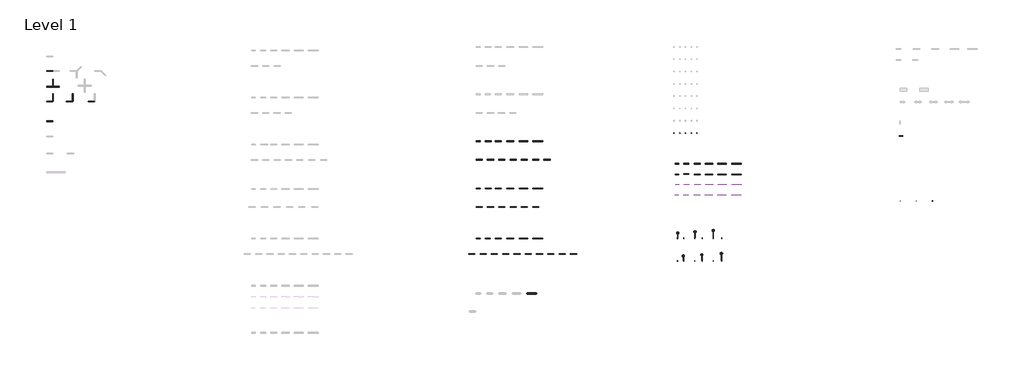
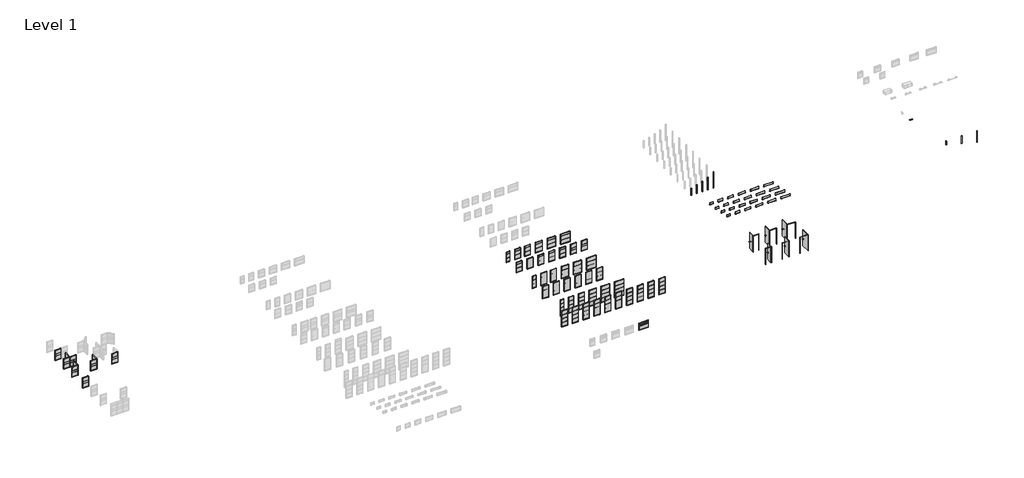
# One storey, part 2 of 3: 100 furniture elements.
"""IFC4 building model written with IfcOpenShell, lengths in millimetres."""

from ifc_helpers import new_model, si_unit, origin, place, context, project, spatial, transform, mapped, element, save
from components import furniture_18w_77195693, furniture_18w_032aefa3, furniture_18w_b942193c, furniture_19h_3db2cf9d, furniture_24w_359a0155, furniture_24w_bf8f6a09, furniture_24w_92815adc, furniture_24w_36258ad4, furniture_30w_c2f0a0af, furniture_30w_b4fbed2b, furniture_30w_bcd8921f, furniture_30w_15590371, furniture_30w_bb846bb7, furniture_30w_223eebd2, furniture_30w_c8dfa282, furniture_30w_df0053b3, furniture_30w_30107077, furniture_30w_7ea12c0a, furniture_30w_bc3bb3c7, furniture_30w_effaa8fa, furniture_30w_ddc59d52, furniture_30w_f99d1f22, furniture_30w_fd134ff3, furniture_30w_fa20d450, furniture_30w_335733bd, furniture_30w_07766502, furniture_30w_left_hand_1f37da82, furniture_30w_left_hand_6fa2456a, furniture_30w_right_hand_f435f522, furniture_36w_db2a7472, furniture_36w_00cd42e2, furniture_36w_d619b393, furniture_36w_left_hand_b3355ba9, furniture_36w_left_hand_83fb8a5f, furniture_36w_right_hand_19197784, furniture_38h_f6beeae2, furniture_38h_panel_18w_221bd9e1, furniture_38h_panel_24w_416ae791, furniture_38h_panel_30w_59863c71, furniture_38h_panel_36w_009f39b3, furniture_38h_panel_42w_7593bf0d, furniture_38h_panel_48w_17ceeb11, furniture_40h_20d503b1, furniture_42w_da4ac2c9, furniture_42w_353a00c2, furniture_42w_a2eb35db, furniture_42w_left_hand_62aa6225, furniture_42w_left_hand_3819f768, furniture_42w_right_hand_b924acb2, furniture_45h_4d69d027, furniture_45h_panel_18w_7b0213ae, furniture_45h_panel_24w_3a8b640c, furniture_45h_panel_30w_e69d3508, furniture_45h_panel_36w_8c2614d2, furniture_45h_panel_42w_6a6dfa50, furniture_45h_panel_48w_7d8eba40, furniture_48w_f1cb6a6a, furniture_48w_216d00bf, furniture_48w_963632dd, furniture_48w_ea8cc2f8, furniture_55h_7e80d0b0, furniture_55h_f8dee131, furniture_55h_e53aab7c, furniture_55h_9c691605, furniture_55h_panel_18w_e8c181aa, furniture_55h_panel_24w_1ceb63e5, furniture_55h_panel_30w_42c54c80, furniture_55h_panel_36w_4b51428f, furniture_55h_panel_42w_252fbfad, furniture_55h_panel_48w_fab729a9, furniture_61h_1c2a9a15, furniture_65h_5714649a, furniture_65h_panel_18w_d44ed53c, furniture_65h_panel_24w_d5945aa2, furniture_65h_panel_30w_7e91a9ee, furniture_65h_panel_36w_ae4e0621, furniture_65h_panel_42w_d4833272, furniture_65h_panel_48w_35d0e2b8, furniture_86h_15c8565b, bracket_7c94740e

model = new_model("IFC4")

# Units and contexts
model_context = context("Model", 3, world=origin())
ifc_project = project(units=[si_unit("LENGTHUNIT", "METRE", prefix="MILLI")], contexts=[model_context])

# Site, building, storey
site = spatial("IfcSite", under=ifc_project)
building = spatial("IfcBuilding", under=site)
storey = spatial("IfcBuildingStorey", under=building, Name="Level 1", Elevation=0.0)

# Furniture
placement = place(None, origin())
furniture_18w_shape = furniture_18w_77195693(model_context)
element("IfcFurniture", 1, ObjectType="Steelcase - Montage - Frame - 86H - Enhanced Standard - Base Cavity : 18W", at=placement, inside=storey, context=model_context, shape_type="MappedRepresentation", body=[
    mapped(furniture_18w_shape, transform((39962.21656, -13995.8588177, 0.0), x_axis=(1.0, 0.0, 0.0), y_axis=(0.0, 1.0, 0.0), z_axis=(0.0, 0.0, 1.0))),
])
furniture_18w_2_shape = furniture_18w_032aefa3(model_context)
element("IfcFurniture", 2, ObjectType="Steelcase - Montage - Frame - 65H - Enhanced Standard - Base Cavity : 18W", at=placement, inside=storey, context=model_context, shape_type="MappedRepresentation", body=[
    mapped(furniture_18w_2_shape, transform((39962.2165559, -7768.7862509, 0.0), x_axis=(1.0, 0.0, 0.0), y_axis=(0.0, 1.0, 0.0), z_axis=(0.0, 0.0, 1.0))),
])
furniture_18w_3_shape = furniture_18w_b942193c(model_context)
element("IfcFurniture", 3, ObjectType="Steelcase - Montage - Frame - 55H - Enhanced Standard - Base Cavity : 18W", at=placement, inside=storey, context=model_context, shape_type="MappedRepresentation", body=[
    mapped(furniture_18w_3_shape, transform((39962.2165559, -1948.1136841, 0.0), x_axis=(1.0, 0.0, 0.0), y_axis=(0.0, 1.0, 0.0), z_axis=(0.0, 0.0, 1.0))),
])
furniture_19h_shape = furniture_19h_3db2cf9d(model_context)
element("IfcFurniture", 4, ObjectType="Steelcase - Montage - Power and Cable Pole : 19H", at=placement, inside=storey, context=model_context, shape_type="MappedRepresentation", body=[
    mapped(furniture_19h_shape, transform((92366.3879827, -9294.9929755, 0.0), x_axis=(1.0, 0.0, 0.0), y_axis=(0.0, 1.0, 0.0), z_axis=(0.0, 0.0, 1.0))),
])
furniture_24w_shape = furniture_24w_359a0155(model_context)
element("IfcFurniture", 5, ObjectType="Steelcase - Montage - Frame - 55H - Enhanced Standard - Base Cavity : 24W", at=placement, inside=storey, context=model_context, shape_type="MappedRepresentation", body=[
    mapped(furniture_24w_shape, transform((41054.4165559, -1948.1136841, 0.0), x_axis=(1.0, 0.0, 0.0), y_axis=(0.0, 1.0, 0.0), z_axis=(0.0, 0.0, 1.0))),
])
furniture_24w_2_shape = furniture_24w_bf8f6a09(model_context)
element("IfcFurniture", 6, ObjectType="Steelcase - Montage - Frame - 55H - Enhanced Monolithic - Base Cavity : 24W", at=placement, inside=storey, context=model_context, shape_type="MappedRepresentation", body=[
    mapped(furniture_24w_2_shape, transform((-12406.4163448, 2998.6070245, 0.0), x_axis=(0.0, 1.0, 0.0), y_axis=(-1.0, 0.0, 0.0), z_axis=(0.0, 0.0, 1.0))),
])
element("IfcFurniture", 7, ObjectType="Steelcase - Montage - Frame - 55H - Enhanced Monolithic - Base Cavity : 24W", at=placement, inside=storey, context=model_context, shape_type="MappedRepresentation", body=[
    mapped(furniture_24w_2_shape, transform((-12406.4163448, 4827.4070245, 0.0), x_axis=(0.0, 1.0, 0.0), y_axis=(-1.0, 0.0, 0.0), z_axis=(0.0, 0.0, 1.0))),
])
element("IfcFurniture", 8, ObjectType="Steelcase - Montage - Frame - 55H - Enhanced Monolithic - Base Cavity : 24W", at=placement, inside=storey, context=model_context, shape_type="MappedRepresentation", body=[
    mapped(furniture_24w_2_shape, transform((-9968.0163448, 2998.6070245, 0.0), x_axis=(0.0, 1.0, 0.0), y_axis=(-1.0, 0.0, 0.0), z_axis=(0.0, 0.0, 1.0))),
])
furniture_24w_3_shape = furniture_24w_92815adc(model_context)
element("IfcFurniture", 9, ObjectType="Steelcase - Montage - Frame - 65H - Enhanced Standard - Base Cavity : 24W", at=placement, inside=storey, context=model_context, shape_type="MappedRepresentation", body=[
    mapped(furniture_24w_3_shape, transform((41054.4165559, -7768.7862509, 0.0), x_axis=(1.0, 0.0, 0.0), y_axis=(0.0, 1.0, 0.0), z_axis=(0.0, 0.0, 1.0))),
])
furniture_24w_4_shape = furniture_24w_36258ad4(model_context)
element("IfcFurniture", 10, ObjectType="Steelcase - Montage - Frame - 86H - Enhanced Standard - Base Cavity : 24W", at=placement, inside=storey, context=model_context, shape_type="MappedRepresentation", body=[
    mapped(furniture_24w_4_shape, transform((41054.41656, -13995.8588177, 0.0), x_axis=(1.0, 0.0, 0.0), y_axis=(0.0, 1.0, 0.0), z_axis=(0.0, 0.0, 1.0))),
])
furniture_30w_shape = furniture_30w_c2f0a0af(model_context)
element("IfcFurniture", 11, ObjectType="Steelcase - Montage - Frame - 86H - Enhanced Standard - Base Cavity : 30W", at=placement, inside=storey, context=model_context, shape_type="MappedRepresentation", body=[
    mapped(furniture_30w_shape, transform((42299.01656, -13995.8588177, 0.0), x_axis=(1.0, 0.0, 0.0), y_axis=(0.0, 1.0, 0.0), z_axis=(0.0, 0.0, 1.0))),
])
element("IfcFurniture", 12, ObjectType="Steelcase - Montage - Frame - 86H - Enhanced Standard - Base Cavity : 30W", at=placement, inside=storey, context=model_context, shape_type="MappedRepresentation", body=[
    mapped(furniture_30w_shape, transform((40412.8756695, -15914.0273697, 0.0), x_axis=(1.0, 0.0, 0.0), y_axis=(0.0, 1.0, 0.0), z_axis=(0.0, 0.0, 1.0))),
])
furniture_30w_2_shape = furniture_30w_b4fbed2b(model_context)
element("IfcFurniture", 13, ObjectType="Steelcase - Montage - Frame - 86H - Enhanced Standard - Base Cavity : 30W", at=placement, inside=storey, context=model_context, shape_type="MappedRepresentation", body=[
    mapped(furniture_30w_2_shape, transform((39015.8756695, -15914.0273697, 0.0), x_axis=(1.0, 0.0, 0.0), y_axis=(0.0, 1.0, 0.0), z_axis=(0.0, 0.0, 1.0))),
])
furniture_30w_3_shape = furniture_30w_bcd8921f(model_context)
element("IfcFurniture", 14, ObjectType="Steelcase - Montage - Frame - 86H - Enhanced Standard - Base Cavity : 30W", at=placement, inside=storey, context=model_context, shape_type="MappedRepresentation", body=[
    mapped(furniture_30w_3_shape, transform((41809.8756695, -15914.0273697, 0.0), x_axis=(1.0, 0.0, 0.0), y_axis=(0.0, 1.0, 0.0), z_axis=(0.0, 0.0, 1.0))),
])
furniture_30w_4_shape = furniture_30w_15590371(model_context)
element("IfcFurniture", 15, ObjectType="Steelcase - Montage - Frame - 86H - Enhanced Standard - Base Cavity : 30W", at=placement, inside=storey, context=model_context, shape_type="MappedRepresentation", body=[
    mapped(furniture_30w_4_shape, transform((43206.8756695, -15914.0273697, 0.0), x_axis=(1.0, 0.0, 0.0), y_axis=(0.0, 1.0, 0.0), z_axis=(0.0, 0.0, 1.0))),
])
furniture_30w_5_shape = furniture_30w_bb846bb7(model_context)
element("IfcFurniture", 16, ObjectType="Steelcase - Montage - Frame - 86H - Enhanced Standard - Base Cavity : 30W", at=placement, inside=storey, context=model_context, shape_type="MappedRepresentation", body=[
    mapped(furniture_30w_5_shape, transform((44603.8756695, -15914.0273697, 0.0), x_axis=(1.0, 0.0, 0.0), y_axis=(0.0, 1.0, 0.0), z_axis=(0.0, 0.0, 1.0))),
])
furniture_30w_6_shape = furniture_30w_223eebd2(model_context)
element("IfcFurniture", 17, ObjectType="Steelcase - Montage - Frame - 86H - Enhanced Standard - Base Cavity : 30W", at=placement, inside=storey, context=model_context, shape_type="MappedRepresentation", body=[
    mapped(furniture_30w_6_shape, transform((46000.8756695, -15914.0273697, 0.0), x_axis=(1.0, 0.0, 0.0), y_axis=(0.0, 1.0, 0.0), z_axis=(0.0, 0.0, 1.0))),
])
furniture_30w_7_shape = furniture_30w_c8dfa282(model_context)
element("IfcFurniture", 18, ObjectType="Steelcase - Montage - Frame - 86H - Enhanced Standard - Base Cavity : 30W", at=placement, inside=storey, context=model_context, shape_type="MappedRepresentation", body=[
    mapped(furniture_30w_7_shape, transform((47397.8756695, -15914.0273697, 0.0), x_axis=(1.0, 0.0, 0.0), y_axis=(0.0, 1.0, 0.0), z_axis=(0.0, 0.0, 1.0))),
])
furniture_30w_8_shape = furniture_30w_df0053b3(model_context)
element("IfcFurniture", 19, ObjectType="Steelcase - Montage - Frame - 86H - Enhanced Standard - Base Cavity : 30W", at=placement, inside=storey, context=model_context, shape_type="MappedRepresentation", body=[
    mapped(furniture_30w_8_shape, transform((48794.8756695, -15914.0273697, 0.0), x_axis=(1.0, 0.0, 0.0), y_axis=(0.0, 1.0, 0.0), z_axis=(0.0, 0.0, 1.0))),
])
furniture_30w_9_shape = furniture_30w_30107077(model_context)
element("IfcFurniture", 20, ObjectType="Steelcase - Montage - Frame - 86H - Enhanced Standard - Base Cavity : 30W", at=placement, inside=storey, context=model_context, shape_type="MappedRepresentation", body=[
    mapped(furniture_30w_9_shape, transform((51589.7624218, -15914.0273697, 0.0), x_axis=(1.0, 0.0, 0.0), y_axis=(0.0, 1.0, 0.0), z_axis=(0.0, 0.0, 1.0))),
])
element("IfcFurniture", 21, ObjectType="Steelcase - Montage - Frame - 55H - Enhanced Standard - Base Cavity : 30W", at=placement, inside=storey, context=model_context, shape_type="MappedRepresentation", body=[
    mapped(furniture_24w_shape, transform((42299.0165559, -1948.1136841, 0.0), x_axis=(1.0, 0.0, 0.0), y_axis=(0.0, 1.0, 0.0), z_axis=(0.0, 0.0, 1.0))),
])
element("IfcFurniture", 22, ObjectType="Steelcase - Montage - Frame - 55H - Enhanced Standard - Base Cavity : 30W", at=placement, inside=storey, context=model_context, shape_type="MappedRepresentation", body=[
    mapped(furniture_24w_shape, transform((39930.2756654, -4234.5822166, 0.0), x_axis=(1.0, 0.0, 0.0), y_axis=(0.0, 1.0, 0.0), z_axis=(0.0, 0.0, 1.0))),
])
furniture_30w_10_shape = furniture_30w_7ea12c0a(model_context)
element("IfcFurniture", 23, ObjectType="Steelcase - Montage - Frame - 55H - Enhanced Standard - Base Cavity : 30W", at=placement, inside=storey, context=model_context, shape_type="MappedRepresentation", body=[
    mapped(furniture_30w_10_shape, transform((41327.2756654, -4234.5822166, 0.0), x_axis=(1.0, 0.0, 0.0), y_axis=(0.0, 1.0, 0.0), z_axis=(0.0, 0.0, 1.0))),
])
furniture_30w_11_shape = furniture_30w_bc3bb3c7(model_context)
element("IfcFurniture", 24, ObjectType="Steelcase - Montage - Frame - 55H - Enhanced Standard - Base Cavity : 30W", at=placement, inside=storey, context=model_context, shape_type="MappedRepresentation", body=[
    mapped(furniture_30w_11_shape, transform((44121.2756654, -4234.5822166, 0.0), x_axis=(1.0, 0.0, 0.0), y_axis=(0.0, 1.0, 0.0), z_axis=(0.0, 0.0, 1.0))),
])
furniture_30w_12_shape = furniture_30w_effaa8fa(model_context)
element("IfcFurniture", 25, ObjectType="Steelcase - Montage - Frame - 55H - Enhanced Standard - Base Cavity : 30W", at=placement, inside=storey, context=model_context, shape_type="MappedRepresentation", body=[
    mapped(furniture_30w_12_shape, transform((45518.2756654, -4234.5822166, 0.0), x_axis=(1.0, 0.0, 0.0), y_axis=(0.0, 1.0, 0.0), z_axis=(0.0, 0.0, 1.0))),
])
furniture_30w_13_shape = furniture_30w_ddc59d52(model_context)
element("IfcFurniture", 26, ObjectType="Steelcase - Montage - Frame - 55H - Enhanced Standard - Base Cavity : 30W", at=placement, inside=storey, context=model_context, shape_type="MappedRepresentation", body=[
    mapped(furniture_30w_13_shape, transform((46915.2756654, -4234.5822166, 0.0), x_axis=(1.0, 0.0, 0.0), y_axis=(0.0, 1.0, 0.0), z_axis=(0.0, 0.0, 1.0))),
])
furniture_30w_14_shape = furniture_30w_f99d1f22(model_context)
element("IfcFurniture", 27, ObjectType="Steelcase - Montage - Frame - 55H - Enhanced Standard - Base Cavity : 30W", at=placement, inside=storey, context=model_context, shape_type="MappedRepresentation", body=[
    mapped(furniture_30w_14_shape, transform((48312.2756654, -4234.5822166, 0.0), x_axis=(1.0, 0.0, 0.0), y_axis=(0.0, 1.0, 0.0), z_axis=(0.0, 0.0, 1.0))),
])
furniture_30w_15_shape = furniture_30w_fd134ff3(model_context)
element("IfcFurniture", 28, ObjectType="Steelcase - Montage - Frame - 65H - Enhanced Standard - Base Cavity : 30W", at=placement, inside=storey, context=model_context, shape_type="MappedRepresentation", body=[
    mapped(furniture_30w_15_shape, transform((39930.2756654, -10093.3548028, 0.0), x_axis=(1.0, 0.0, 0.0), y_axis=(0.0, 1.0, 0.0), z_axis=(0.0, 0.0, 1.0))),
])
element("IfcFurniture", 29, ObjectType="Steelcase - Montage - Frame - 65H - Enhanced Standard - Base Cavity : 30W", at=placement, inside=storey, context=model_context, shape_type="MappedRepresentation", body=[
    mapped(furniture_30w_15_shape, transform((41327.2756654, -10093.3548028, 0.0), x_axis=(1.0, 0.0, 0.0), y_axis=(0.0, 1.0, 0.0), z_axis=(0.0, 0.0, 1.0))),
])
element("IfcFurniture", 30, ObjectType="Steelcase - Montage - Frame - 65H - Enhanced Standard - Base Cavity : 30W", at=placement, inside=storey, context=model_context, shape_type="MappedRepresentation", body=[
    mapped(furniture_30w_15_shape, transform((42299.0165559, -7768.7862509, 0.0), x_axis=(1.0, 0.0, 0.0), y_axis=(0.0, 1.0, 0.0), z_axis=(0.0, 0.0, 1.0))),
])
element("IfcFurniture", 31, ObjectType="Steelcase - Montage - Frame - 65H - Enhanced Standard - Base Cavity : 30W", at=placement, inside=storey, context=model_context, shape_type="MappedRepresentation", body=[
    mapped(furniture_30w_15_shape, transform((42724.2756654, -10093.3548028, 0.0), x_axis=(1.0, 0.0, 0.0), y_axis=(0.0, 1.0, 0.0), z_axis=(0.0, 0.0, 1.0))),
])
element("IfcFurniture", 32, ObjectType="Steelcase - Montage - Frame - 65H - Enhanced Standard - Base Cavity : 30W", at=placement, inside=storey, context=model_context, shape_type="MappedRepresentation", body=[
    mapped(furniture_30w_15_shape, transform((44121.2756654, -10093.3548028, 0.0), x_axis=(1.0, 0.0, 0.0), y_axis=(0.0, 1.0, 0.0), z_axis=(0.0, 0.0, 1.0))),
])
element("IfcFurniture", 33, ObjectType="Steelcase - Montage - Frame - 65H - Enhanced Standard - Base Cavity : 30W", at=placement, inside=storey, context=model_context, shape_type="MappedRepresentation", body=[
    mapped(furniture_30w_15_shape, transform((45518.2756654, -10093.3548028, 0.0), x_axis=(1.0, 0.0, 0.0), y_axis=(0.0, 1.0, 0.0), z_axis=(0.0, 0.0, 1.0))),
])
element("IfcFurniture", 34, ObjectType="Steelcase - Montage - Frame - 65H - Enhanced Standard - Base Cavity : 30W", at=placement, inside=storey, context=model_context, shape_type="MappedRepresentation", body=[
    mapped(furniture_30w_15_shape, transform((46915.2756654, -10093.3548028, 0.0), x_axis=(1.0, 0.0, 0.0), y_axis=(0.0, 1.0, 0.0), z_axis=(0.0, 0.0, 1.0))),
])
furniture_30w_16_shape = furniture_30w_fa20d450(model_context)
element("IfcFurniture", 35, ObjectType="Steelcase - Montage - Frame - 55H - Enhanced Monolithic - Base Cavity : 30W", at=placement, inside=storey, context=model_context, shape_type="MappedRepresentation", body=[
    mapped(furniture_30w_16_shape, transform((-13206.5163433, 6719.707023, 0.0), x_axis=(1.0, 0.0, 0.0), y_axis=(0.0, 1.0, 0.0), z_axis=(0.0, 0.0, 1.0))),
])
element("IfcFurniture", 36, ObjectType="Steelcase - Montage - Frame - 55H - Enhanced Monolithic - Base Cavity : 30W", at=placement, inside=storey, context=model_context, shape_type="MappedRepresentation", body=[
    mapped(furniture_30w_16_shape, transform((-13206.5163433, 2960.507023, 0.0), x_axis=(1.0, 0.0, 0.0), y_axis=(0.0, 1.0, 0.0), z_axis=(0.0, 0.0, 1.0))),
])
element("IfcFurniture", 37, ObjectType="Steelcase - Montage - Frame - 55H - Enhanced Monolithic - Base Cavity : 30W", at=placement, inside=storey, context=model_context, shape_type="MappedRepresentation", body=[
    mapped(furniture_30w_16_shape, transform((-13206.5163433, 4789.307023, 0.0), x_axis=(1.0, 0.0, 0.0), y_axis=(0.0, 1.0, 0.0), z_axis=(0.0, 0.0, 1.0))),
])
element("IfcFurniture", 38, ObjectType="Steelcase - Montage - Frame - 55H - Enhanced Monolithic - Base Cavity : 30W", at=placement, inside=storey, context=model_context, shape_type="MappedRepresentation", body=[
    mapped(furniture_30w_16_shape, transform((-12368.3163433, 4789.307023, 0.0), x_axis=(1.0, 0.0, 0.0), y_axis=(0.0, 1.0, 0.0), z_axis=(0.0, 0.0, 1.0))),
])
element("IfcFurniture", 39, ObjectType="Steelcase - Montage - Frame - 55H - Enhanced Monolithic - Base Cavity : 30W", at=placement, inside=storey, context=model_context, shape_type="MappedRepresentation", body=[
    mapped(furniture_30w_16_shape, transform((-10768.1163433, 2960.507023, 0.0), x_axis=(1.0, 0.0, 0.0), y_axis=(0.0, 1.0, 0.0), z_axis=(0.0, 0.0, 1.0))),
])
element("IfcFurniture", 40, ObjectType="Steelcase - Montage - Frame - 55H - Enhanced Monolithic - Base Cavity : 30W", at=placement, inside=storey, context=model_context, shape_type="MappedRepresentation", body=[
    mapped(furniture_30w_16_shape, transform((-8050.3163433, 2960.507023, 0.0), x_axis=(1.0, 0.0, 0.0), y_axis=(0.0, 1.0, 0.0), z_axis=(0.0, 0.0, 1.0))),
])
element("IfcFurniture", 41, ObjectType="Steelcase - Montage - Frame - 55H - Enhanced Monolithic - Base Cavity : 30W", at=placement, inside=storey, context=model_context, shape_type="MappedRepresentation", body=[
    mapped(furniture_30w_16_shape, transform((-13206.5163433, 522.107023, 0.0), x_axis=(1.0, 0.0, 0.0), y_axis=(0.0, 1.0, 0.0), z_axis=(0.0, 0.0, 1.0))),
])
furniture_30w_17_shape = furniture_30w_335733bd(model_context)
element("IfcFurniture", 42, ObjectType="Steelcase - Montage - Frame - 55H - Enhanced Standard - Base Cavity : 30W", at=placement, inside=storey, context=model_context, shape_type="MappedRepresentation", body=[
    mapped(furniture_30w_17_shape, transform((42724.2756654, -4234.5822166, 0.0), x_axis=(1.0, 0.0, 0.0), y_axis=(0.0, 1.0, 0.0), z_axis=(0.0, 0.0, 1.0))),
])
furniture_30w_18_shape = furniture_30w_07766502(model_context)
element("IfcFurniture", 43, ObjectType="Steelcase - Montage - Frame - 86H - Enhanced Standard - Base Cavity : 30W", at=placement, inside=storey, context=model_context, shape_type="MappedRepresentation", body=[
    mapped(furniture_30w_18_shape, transform((50191.8756695, -15914.0273697, 0.0), x_axis=(1.0, 0.0, 0.0), y_axis=(0.0, 1.0, 0.0), z_axis=(0.0, 0.0, 1.0))),
])
furniture_30w_left_hand_shape = furniture_30w_left_hand_1f37da82(model_context)
element("IfcFurniture", 44, ObjectType="Steelcase - Montage - Door - Door Frame : 30W - Left Hand", at=placement, inside=storey, context=model_context, shape_type="MappedRepresentation", body=[
    mapped(furniture_30w_left_hand_shape, transform((64834.8376088, -13938.1558096, 0.0), x_axis=(1.0, 0.0, 0.0), y_axis=(0.0, 1.0, 0.0), z_axis=(0.0, 0.0, 1.0))),
])
furniture_30w_left_hand_2_shape = furniture_30w_left_hand_6fa2456a(model_context)
element("IfcFurniture", 45, ObjectType="Steelcase - Montage - Door - Hinged Door : 30W - Left Hand", at=placement, inside=storey, context=model_context, shape_type="MappedRepresentation", body=[
    mapped(furniture_30w_left_hand_2_shape, transform((64834.8376088, -13938.1558096, 0.0), x_axis=(1.0, 0.0, 0.0), y_axis=(0.0, 1.0, 0.0), z_axis=(0.0, 0.0, 1.0))),
])
furniture_30w_right_hand_shape = furniture_30w_right_hand_f435f522(model_context)
element("IfcFurniture", 46, ObjectType="Steelcase - Montage - Door - Hinged Door : 30W - Right Hand", at=placement, inside=storey, context=model_context, shape_type="MappedRepresentation", body=[
    mapped(furniture_30w_right_hand_shape, transform((64834.8376088, -16772.2585577, 0.0), x_axis=(1.0, 0.0, 0.0), y_axis=(0.0, 1.0, 0.0), z_axis=(0.0, 0.0, 1.0))),
])
element("IfcFurniture", 47, ObjectType="Steelcase - Montage - Door - Door Frame : 30W - Right Hand", at=placement, inside=storey, context=model_context, shape_type="MappedRepresentation", body=[
    mapped(furniture_30w_left_hand_shape, transform((64834.8376088, -16772.2585577, 0.0), x_axis=(1.0, 0.0, 0.0), y_axis=(0.0, 1.0, 0.0), z_axis=(0.0, 0.0, 1.0))),
])
furniture_36w_shape = furniture_36w_db2a7472(model_context)
element("IfcFurniture", 48, ObjectType="Steelcase - Montage - Frame - 55H - Enhanced Standard - Base Cavity : 36W", at=placement, inside=storey, context=model_context, shape_type="MappedRepresentation", body=[
    mapped(furniture_36w_shape, transform((43696.0165559, -1948.1136841, 0.0), x_axis=(1.0, 0.0, 0.0), y_axis=(0.0, 1.0, 0.0), z_axis=(0.0, 0.0, 1.0))),
])
furniture_36w_2_shape = furniture_36w_00cd42e2(model_context)
element("IfcFurniture", 49, ObjectType="Steelcase - Montage - Frame - 65H - Enhanced Standard - Base Cavity : 36W", at=placement, inside=storey, context=model_context, shape_type="MappedRepresentation", body=[
    mapped(furniture_36w_2_shape, transform((43696.0165559, -7768.7862509, 0.0), x_axis=(1.0, 0.0, 0.0), y_axis=(0.0, 1.0, 0.0), z_axis=(0.0, 0.0, 1.0))),
])
furniture_36w_3_shape = furniture_36w_d619b393(model_context)
element("IfcFurniture", 50, ObjectType="Steelcase - Montage - Frame - 86H - Enhanced Standard - Base Cavity : 36W", at=placement, inside=storey, context=model_context, shape_type="MappedRepresentation", body=[
    mapped(furniture_36w_3_shape, transform((43696.01656, -13995.8588177, 0.0), x_axis=(1.0, 0.0, 0.0), y_axis=(0.0, 1.0, 0.0), z_axis=(0.0, 0.0, 1.0))),
])
furniture_36w_left_hand_shape = furniture_36w_left_hand_b3355ba9(model_context)
element("IfcFurniture", 51, ObjectType="Steelcase - Montage - Door - Hinged Door : 36W - Left Hand", at=placement, inside=storey, context=model_context, shape_type="MappedRepresentation", body=[
    mapped(furniture_36w_left_hand_shape, transform((66974.7876088, -13938.1558096, 0.0), x_axis=(1.0, 0.0, 0.0), y_axis=(0.0, 1.0, 0.0), z_axis=(0.0, 0.0, 1.0))),
])
furniture_36w_left_hand_2_shape = furniture_36w_left_hand_83fb8a5f(model_context)
element("IfcFurniture", 52, ObjectType="Steelcase - Montage - Door - Door Frame : 36W - Left Hand", at=placement, inside=storey, context=model_context, shape_type="MappedRepresentation", body=[
    mapped(furniture_36w_left_hand_2_shape, transform((66974.7876088, -13938.1558096, 0.0), x_axis=(1.0, 0.0, 0.0), y_axis=(0.0, 1.0, 0.0), z_axis=(0.0, 0.0, 1.0))),
])
furniture_36w_right_hand_shape = furniture_36w_right_hand_19197784(model_context)
element("IfcFurniture", 53, ObjectType="Steelcase - Montage - Door - Hinged Door : 36W - Right Hand", at=placement, inside=storey, context=model_context, shape_type="MappedRepresentation", body=[
    mapped(furniture_36w_right_hand_shape, transform((66974.7876088, -16772.2585577, 0.0), x_axis=(1.0, 0.0, 0.0), y_axis=(0.0, 1.0, 0.0), z_axis=(0.0, 0.0, 1.0))),
])
element("IfcFurniture", 54, ObjectType="Steelcase - Montage - Door - Door Frame : 36W - Right Hand", at=placement, inside=storey, context=model_context, shape_type="MappedRepresentation", body=[
    mapped(furniture_36w_left_hand_2_shape, transform((66974.7876088, -16772.2585577, 0.0), x_axis=(1.0, 0.0, 0.0), y_axis=(0.0, 1.0, 0.0), z_axis=(0.0, 0.0, 1.0))),
])
furniture_38h_shape = furniture_38h_f6beeae2(model_context)
element("IfcFurniture", 55, ObjectType="Steelcase - Montage - Junction - Y - Same-Height : 38H", at=placement, inside=storey, context=model_context, shape_type="MappedRepresentation", body=[
    mapped(furniture_38h_shape, transform((63920.4376088, -938.3929755, 0.0), x_axis=(1.0, 0.0, 0.0), y_axis=(0.0, 1.0, 0.0), z_axis=(0.0, 0.0, 1.0))),
])
furniture_38h_panel_18w_shape = furniture_38h_panel_18w_221bd9e1(model_context)
element("IfcFurniture", 56, ObjectType="Steelcase - Montage - Tiles - 10H - Frameless Glass Stacker : 38H Panel - 18W", at=placement, inside=storey, context=model_context, shape_type="MappedRepresentation", body=[
    mapped(furniture_38h_panel_18w_shape, transform((64555.4376088, -4735.210676, 0.0), x_axis=(1.0, 0.0, 0.0), y_axis=(0.0, 1.0, 0.0), z_axis=(0.0, 0.0, 1.0))),
])
furniture_38h_panel_24w_shape = furniture_38h_panel_24w_416ae791(model_context)
element("IfcFurniture", 57, ObjectType="Steelcase - Montage - Tiles - 10H - Frameless Glass Stacker : 38H Panel - 24W", at=placement, inside=storey, context=model_context, shape_type="MappedRepresentation", body=[
    mapped(furniture_38h_panel_24w_shape, transform((65640.8558087, -4735.210676, 0.0), x_axis=(1.0, 0.0, 0.0), y_axis=(0.0, 1.0, 0.0), z_axis=(0.0, 0.0, 1.0))),
])
furniture_38h_panel_30w_shape = furniture_38h_panel_30w_59863c71(model_context)
element("IfcFurniture", 58, ObjectType="Steelcase - Montage - Tiles - 10H - Frameless Glass Stacker : 38H Panel - 30W", at=placement, inside=storey, context=model_context, shape_type="MappedRepresentation", body=[
    mapped(furniture_38h_panel_30w_shape, transform((66885.4558087, -4735.210676, 0.0), x_axis=(1.0, 0.0, 0.0), y_axis=(0.0, 1.0, 0.0), z_axis=(0.0, 0.0, 1.0))),
])
furniture_38h_panel_36w_shape = furniture_38h_panel_36w_009f39b3(model_context)
element("IfcFurniture", 59, ObjectType="Steelcase - Montage - Tiles - 10H - Frameless Glass Stacker : 38H Panel - 36W", at=placement, inside=storey, context=model_context, shape_type="MappedRepresentation", body=[
    mapped(furniture_38h_panel_36w_shape, transform((68282.4558087, -4735.210676, 0.0), x_axis=(1.0, 0.0, 0.0), y_axis=(0.0, 1.0, 0.0), z_axis=(0.0, 0.0, 1.0))),
])
furniture_38h_panel_42w_shape = furniture_38h_panel_42w_7593bf0d(model_context)
element("IfcFurniture", 60, ObjectType="Steelcase - Montage - Tiles - 10H - Frameless Glass Stacker : 38H Panel - 42W", at=placement, inside=storey, context=model_context, shape_type="MappedRepresentation", body=[
    mapped(furniture_38h_panel_42w_shape, transform((69831.8558087, -4735.210676, 0.0), x_axis=(1.0, 0.0, 0.0), y_axis=(0.0, 1.0, 0.0), z_axis=(0.0, 0.0, 1.0))),
])
furniture_38h_panel_48w_shape = furniture_38h_panel_48w_17ceeb11(model_context)
element("IfcFurniture", 61, ObjectType="Steelcase - Montage - Tiles - 10H - Frameless Glass Stacker : 38H Panel - 48W", at=placement, inside=storey, context=model_context, shape_type="MappedRepresentation", body=[
    mapped(furniture_38h_panel_48w_shape, transform((71533.6558087, -4735.210676, 0.0), x_axis=(1.0, 0.0, 0.0), y_axis=(0.0, 1.0, 0.0), z_axis=(0.0, 0.0, 1.0))),
])
furniture_40h_shape = furniture_40h_20d503b1(model_context)
element("IfcFurniture", 62, ObjectType="Steelcase - Montage - Power and Cable Pole : 40H", at=placement, inside=storey, context=model_context, shape_type="MappedRepresentation", body=[
    mapped(furniture_40h_shape, transform((94361.3127957, -9294.9929755, 0.0), x_axis=(1.0, 0.0, 0.0), y_axis=(0.0, 1.0, 0.0), z_axis=(0.0, 0.0, 1.0))),
])
furniture_42w_shape = furniture_42w_da4ac2c9(model_context)
element("IfcFurniture", 63, ObjectType="Steelcase - Montage - Frame - 86H - Enhanced Standard - Base Cavity : 42W", at=placement, inside=storey, context=model_context, shape_type="MappedRepresentation", body=[
    mapped(furniture_42w_shape, transform((45245.41656, -13995.8588177, 0.0), x_axis=(1.0, 0.0, 0.0), y_axis=(0.0, 1.0, 0.0), z_axis=(0.0, 0.0, 1.0))),
])
furniture_42w_2_shape = furniture_42w_353a00c2(model_context)
element("IfcFurniture", 64, ObjectType="Steelcase - Montage - Frame - 65H - Enhanced Standard - Base Cavity : 42W", at=placement, inside=storey, context=model_context, shape_type="MappedRepresentation", body=[
    mapped(furniture_42w_2_shape, transform((45245.4165559, -7768.7862509, 0.0), x_axis=(1.0, 0.0, 0.0), y_axis=(0.0, 1.0, 0.0), z_axis=(0.0, 0.0, 1.0))),
])
furniture_42w_3_shape = furniture_42w_a2eb35db(model_context)
element("IfcFurniture", 65, ObjectType="Steelcase - Montage - Frame - 55H - Enhanced Standard - Base Cavity : 42W", at=placement, inside=storey, context=model_context, shape_type="MappedRepresentation", body=[
    mapped(furniture_42w_3_shape, transform((45245.4165559, -1948.1136841, 0.0), x_axis=(1.0, 0.0, 0.0), y_axis=(0.0, 1.0, 0.0), z_axis=(0.0, 0.0, 1.0))),
])
furniture_42w_left_hand_shape = furniture_42w_left_hand_62aa6225(model_context)
element("IfcFurniture", 66, ObjectType="Steelcase - Montage - Door - Door Frame : 42W - Left Hand", at=placement, inside=storey, context=model_context, shape_type="MappedRepresentation", body=[
    mapped(furniture_42w_left_hand_shape, transform((69241.7376088, -13938.1558096, 0.0), x_axis=(1.0, 0.0, 0.0), y_axis=(0.0, 1.0, 0.0), z_axis=(0.0, 0.0, 1.0))),
])
furniture_42w_left_hand_2_shape = furniture_42w_left_hand_3819f768(model_context)
element("IfcFurniture", 67, ObjectType="Steelcase - Montage - Door - Hinged Door : 42W - Left Hand", at=placement, inside=storey, context=model_context, shape_type="MappedRepresentation", body=[
    mapped(furniture_42w_left_hand_2_shape, transform((69241.7376088, -13938.1558096, 0.0), x_axis=(1.0, 0.0, 0.0), y_axis=(0.0, 1.0, 0.0), z_axis=(0.0, 0.0, 1.0))),
])
furniture_42w_right_hand_shape = furniture_42w_right_hand_b924acb2(model_context)
element("IfcFurniture", 68, ObjectType="Steelcase - Montage - Door - Hinged Door : 42W - Right Hand", at=placement, inside=storey, context=model_context, shape_type="MappedRepresentation", body=[
    mapped(furniture_42w_right_hand_shape, transform((69241.7376088, -16772.2585577, 0.0), x_axis=(1.0, 0.0, 0.0), y_axis=(0.0, 1.0, 0.0), z_axis=(0.0, 0.0, 1.0))),
])
element("IfcFurniture", 69, ObjectType="Steelcase - Montage - Door - Door Frame : 42W - Right Hand", at=placement, inside=storey, context=model_context, shape_type="MappedRepresentation", body=[
    mapped(furniture_42w_left_hand_shape, transform((69241.7376088, -16772.2585577, 0.0), x_axis=(1.0, 0.0, 0.0), y_axis=(0.0, 1.0, 0.0), z_axis=(0.0, 0.0, 1.0))),
])
furniture_45h_shape = furniture_45h_4d69d027(model_context)
element("IfcFurniture", 70, ObjectType="Steelcase - Montage - Junction - Y - Same-Height : 45H", at=placement, inside=storey, context=model_context, shape_type="MappedRepresentation", body=[
    mapped(furniture_45h_shape, transform((64631.6376088, -938.3929755, 0.0), x_axis=(1.0, 0.0, 0.0), y_axis=(0.0, 1.0, 0.0), z_axis=(0.0, 0.0, 1.0))),
])
furniture_45h_panel_18w_shape = furniture_45h_panel_18w_7b0213ae(model_context)
element("IfcFurniture", 71, ObjectType="Steelcase - Montage - Tiles - 10H - Frameless Glass Stacker : 45H Panel - 18W", at=placement, inside=storey, context=model_context, shape_type="MappedRepresentation", body=[
    mapped(furniture_45h_panel_18w_shape, transform((64555.4376088, -6043.3106775, 0.0), x_axis=(1.0, 0.0, 0.0), y_axis=(0.0, 1.0, 0.0), z_axis=(0.0, 0.0, 1.0))),
])
furniture_45h_panel_24w_shape = furniture_45h_panel_24w_3a8b640c(model_context)
element("IfcFurniture", 72, ObjectType="Steelcase - Montage - Tiles - 10H - Frameless Glass Stacker : 45H Panel - 24W", at=placement, inside=storey, context=model_context, shape_type="MappedRepresentation", body=[
    mapped(furniture_45h_panel_24w_shape, transform((65640.8558087, -6005.210676, 0.0), x_axis=(1.0, 0.0, 0.0), y_axis=(0.0, 1.0, 0.0), z_axis=(0.0, 0.0, 1.0))),
])
furniture_45h_panel_30w_shape = furniture_45h_panel_30w_e69d3508(model_context)
element("IfcFurniture", 73, ObjectType="Steelcase - Montage - Tiles - 10H - Frameless Glass Stacker : 45H Panel - 30W", at=placement, inside=storey, context=model_context, shape_type="MappedRepresentation", body=[
    mapped(furniture_45h_panel_30w_shape, transform((66885.4558087, -6043.3106775, 0.0), x_axis=(1.0, 0.0, 0.0), y_axis=(0.0, 1.0, 0.0), z_axis=(0.0, 0.0, 1.0))),
])
furniture_45h_panel_36w_shape = furniture_45h_panel_36w_8c2614d2(model_context)
element("IfcFurniture", 74, ObjectType="Steelcase - Montage - Tiles - 10H - Frameless Glass Stacker : 45H Panel - 36W", at=placement, inside=storey, context=model_context, shape_type="MappedRepresentation", body=[
    mapped(furniture_45h_panel_36w_shape, transform((68282.4558087, -6043.3106775, 0.0), x_axis=(1.0, 0.0, 0.0), y_axis=(0.0, 1.0, 0.0), z_axis=(0.0, 0.0, 1.0))),
])
furniture_45h_panel_42w_shape = furniture_45h_panel_42w_6a6dfa50(model_context)
element("IfcFurniture", 75, ObjectType="Steelcase - Montage - Tiles - 10H - Frameless Glass Stacker : 45H Panel - 42W", at=placement, inside=storey, context=model_context, shape_type="MappedRepresentation", body=[
    mapped(furniture_45h_panel_42w_shape, transform((69831.8558087, -6043.3106775, 0.0), x_axis=(1.0, 0.0, 0.0), y_axis=(0.0, 1.0, 0.0), z_axis=(0.0, 0.0, 1.0))),
])
furniture_45h_panel_48w_shape = furniture_45h_panel_48w_7d8eba40(model_context)
element("IfcFurniture", 76, ObjectType="Steelcase - Montage - Tiles - 10H - Frameless Glass Stacker : 45H Panel - 48W", at=placement, inside=storey, context=model_context, shape_type="MappedRepresentation", body=[
    mapped(furniture_45h_panel_48w_shape, transform((71533.6558087, -6043.3106775, 0.0), x_axis=(1.0, 0.0, 0.0), y_axis=(0.0, 1.0, 0.0), z_axis=(0.0, 0.0, 1.0))),
])
furniture_48w_shape = furniture_48w_f1cb6a6a(model_context)
element("IfcFurniture", 77, ObjectType="Steelcase - Montage - Frame - 86H - Enhanced Standard - Base Cavity : 48W", at=placement, inside=storey, context=model_context, shape_type="MappedRepresentation", body=[
    mapped(furniture_48w_shape, transform((46947.21656, -13995.8588177, 0.0), x_axis=(1.0, 0.0, 0.0), y_axis=(0.0, 1.0, 0.0), z_axis=(0.0, 0.0, 1.0))),
])
furniture_48w_2_shape = furniture_48w_216d00bf(model_context)
element("IfcFurniture", 78, ObjectType="Steelcase - Montage - Frame - 55H - Enhanced Standard - Base Cavity : 48W", at=placement, inside=storey, context=model_context, shape_type="MappedRepresentation", body=[
    mapped(furniture_48w_2_shape, transform((46947.2165559, -1948.1136841, 0.0), x_axis=(1.0, 0.0, 0.0), y_axis=(0.0, 1.0, 0.0), z_axis=(0.0, 0.0, 1.0))),
])
furniture_48w_3_shape = furniture_48w_963632dd(model_context)
element("IfcFurniture", 79, ObjectType="Steelcase - Montage - Frame - 65H - Enhanced Standard - Base Cavity : 48W", at=placement, inside=storey, context=model_context, shape_type="MappedRepresentation", body=[
    mapped(furniture_48w_3_shape, transform((46947.2165559, -7768.7862509, 0.0), x_axis=(1.0, 0.0, 0.0), y_axis=(0.0, 1.0, 0.0), z_axis=(0.0, 0.0, 1.0))),
])
furniture_48w_4_shape = furniture_48w_ea8cc2f8(model_context)
element("IfcFurniture", 80, ObjectType="Steelcase - Montage - Frame - 38H - Enhanced Standard - Base and Desk-Height Cavity : 48W", at=placement, inside=storey, context=model_context, shape_type="MappedRepresentation", body=[
    mapped(furniture_48w_4_shape, transform((46185.2165559, -20781.7313845, 0.0), x_axis=(1.0, 0.0, 0.0), y_axis=(0.0, 1.0, 0.0), z_axis=(0.0, 0.0, 1.0))),
])
furniture_55h_shape = furniture_55h_7e80d0b0(model_context)
element("IfcFurniture", 81, ObjectType="Steelcase - Montage - Junction - L Radius - Same-Height : 55H", at=placement, inside=storey, context=model_context, shape_type="MappedRepresentation", body=[
    mapped(furniture_55h_shape, transform((-9968.0163423, 3455.8070245, 0.0), x_axis=(0.0, -1.0, 0.0), y_axis=(1.0, 0.0, 0.0), z_axis=(0.0, 0.0, 1.0))),
])
furniture_55h_2_shape = furniture_55h_f8dee131(model_context)
element("IfcFurniture", 82, ObjectType="Steelcase - Montage - Junction - L Chamfered- Same-Height : 55H", at=placement, inside=storey, context=model_context, shape_type="MappedRepresentation", body=[
    mapped(furniture_55h_2_shape, transform((-12406.4163448, 3455.8070245, 0.0), x_axis=(0.0, -1.0, 0.0), y_axis=(1.0, 0.0, 0.0), z_axis=(0.0, 0.0, 1.0))),
])
furniture_55h_3_shape = furniture_55h_e53aab7c(model_context)
element("IfcFurniture", 83, ObjectType="Steelcase - Montage - Junction - T - Same-Height : 55H", at=placement, inside=storey, context=model_context, shape_type="MappedRepresentation", body=[
    mapped(furniture_55h_3_shape, transform((-12901.7163433, 4789.307023, 0.0), x_axis=(1.0, 0.0, 0.0), y_axis=(0.0, 1.0, 0.0), z_axis=(0.0, 0.0, 1.0))),
])
furniture_55h_4_shape = furniture_55h_9c691605(model_context)
element("IfcFurniture", 84, ObjectType="Steelcase - Montage - Junction - Y - Same-Height : 55H", at=placement, inside=storey, context=model_context, shape_type="MappedRepresentation", body=[
    mapped(furniture_55h_4_shape, transform((65342.8376088, -938.3929755, 0.0), x_axis=(1.0, 0.0, 0.0), y_axis=(0.0, 1.0, 0.0), z_axis=(0.0, 0.0, 1.0))),
])
furniture_55h_panel_18w_shape = furniture_55h_panel_18w_e8c181aa(model_context)
element("IfcFurniture", 85, ObjectType="Steelcase - Montage - Tiles - 10H - Frameless Glass Stacker : 55H Panel - 18W", at=placement, inside=storey, context=model_context, shape_type="MappedRepresentation", body=[
    mapped(furniture_55h_panel_18w_shape, transform((64555.4376088, -7313.3106775, 0.0), x_axis=(1.0, 0.0, 0.0), y_axis=(0.0, 1.0, 0.0), z_axis=(0.0, 0.0, 1.0))),
])
furniture_55h_panel_24w_shape = furniture_55h_panel_24w_1ceb63e5(model_context)
element("IfcFurniture", 86, ObjectType="Steelcase - Montage - Tiles - 10H - Frameless Glass Stacker : 55H Panel - 24W", at=placement, inside=storey, context=model_context, shape_type="MappedRepresentation", body=[
    mapped(furniture_55h_panel_24w_shape, transform((65640.8558087, -7313.3106775, 0.0), x_axis=(1.0, 0.0, 0.0), y_axis=(0.0, 1.0, 0.0), z_axis=(0.0, 0.0, 1.0))),
])
furniture_55h_panel_30w_shape = furniture_55h_panel_30w_42c54c80(model_context)
element("IfcFurniture", 87, ObjectType="Steelcase - Montage - Tiles - 10H - Frameless Glass Stacker : 55H Panel - 30W", at=placement, inside=storey, context=model_context, shape_type="MappedRepresentation", body=[
    mapped(furniture_55h_panel_30w_shape, transform((66885.4558087, -7313.3106775, 0.0), x_axis=(1.0, 0.0, 0.0), y_axis=(0.0, 1.0, 0.0), z_axis=(0.0, 0.0, 1.0))),
])
furniture_55h_panel_36w_shape = furniture_55h_panel_36w_4b51428f(model_context)
element("IfcFurniture", 88, ObjectType="Steelcase - Montage - Tiles - 10H - Frameless Glass Stacker : 55H Panel - 36W", at=placement, inside=storey, context=model_context, shape_type="MappedRepresentation", body=[
    mapped(furniture_55h_panel_36w_shape, transform((68282.4558087, -7313.3106775, 0.0), x_axis=(1.0, 0.0, 0.0), y_axis=(0.0, 1.0, 0.0), z_axis=(0.0, 0.0, 1.0))),
])
furniture_55h_panel_42w_shape = furniture_55h_panel_42w_252fbfad(model_context)
element("IfcFurniture", 89, ObjectType="Steelcase - Montage - Tiles - 10H - Frameless Glass Stacker : 55H Panel - 42W", at=placement, inside=storey, context=model_context, shape_type="MappedRepresentation", body=[
    mapped(furniture_55h_panel_42w_shape, transform((69831.8558087, -7313.3106775, 0.0), x_axis=(1.0, 0.0, 0.0), y_axis=(0.0, 1.0, 0.0), z_axis=(0.0, 0.0, 1.0))),
])
furniture_55h_panel_48w_shape = furniture_55h_panel_48w_fab729a9(model_context)
element("IfcFurniture", 90, ObjectType="Steelcase - Montage - Tiles - 10H - Frameless Glass Stacker : 55H Panel - 48W", at=placement, inside=storey, context=model_context, shape_type="MappedRepresentation", body=[
    mapped(furniture_55h_panel_48w_shape, transform((71533.6558087, -7313.3106775, 0.0), x_axis=(1.0, 0.0, 0.0), y_axis=(0.0, 1.0, 0.0), z_axis=(0.0, 0.0, 1.0))),
])
furniture_61h_shape = furniture_61h_1c2a9a15(model_context)
element("IfcFurniture", 91, ObjectType="Steelcase - Montage - Power and Cable Pole : 61H", at=placement, inside=storey, context=model_context, shape_type="MappedRepresentation", body=[
    mapped(furniture_61h_shape, transform((96342.5127957, -9294.9929755, 0.0), x_axis=(1.0, 0.0, 0.0), y_axis=(0.0, 1.0, 0.0), z_axis=(0.0, 0.0, 1.0))),
])
furniture_65h_shape = furniture_65h_5714649a(model_context)
element("IfcFurniture", 92, ObjectType="Steelcase - Montage - Junction - Y - Same-Height : 65H", at=placement, inside=storey, context=model_context, shape_type="MappedRepresentation", body=[
    mapped(furniture_65h_shape, transform((66054.0376088, -938.3929755, 0.0), x_axis=(1.0, 0.0, 0.0), y_axis=(0.0, 1.0, 0.0), z_axis=(0.0, 0.0, 1.0))),
])
furniture_65h_panel_18w_shape = furniture_65h_panel_18w_d44ed53c(model_context)
element("IfcFurniture", 93, ObjectType="Steelcase - Montage - Tiles - 10H - Frameless Glass Stacker : 65H Panel - 18W", at=placement, inside=storey, context=model_context, shape_type="MappedRepresentation", body=[
    mapped(furniture_65h_panel_18w_shape, transform((64555.4376088, -8583.3106775, 0.0), x_axis=(1.0, 0.0, 0.0), y_axis=(0.0, 1.0, 0.0), z_axis=(0.0, 0.0, 1.0))),
])
furniture_65h_panel_24w_shape = furniture_65h_panel_24w_d5945aa2(model_context)
element("IfcFurniture", 94, ObjectType="Steelcase - Montage - Tiles - 10H - Frameless Glass Stacker : 65H Panel - 24W", at=placement, inside=storey, context=model_context, shape_type="MappedRepresentation", body=[
    mapped(furniture_65h_panel_24w_shape, transform((65640.8558087, -8583.3106775, 0.0), x_axis=(1.0, 0.0, 0.0), y_axis=(0.0, 1.0, 0.0), z_axis=(0.0, 0.0, 1.0))),
])
furniture_65h_panel_30w_shape = furniture_65h_panel_30w_7e91a9ee(model_context)
element("IfcFurniture", 95, ObjectType="Steelcase - Montage - Tiles - 10H - Frameless Glass Stacker : 65H Panel - 30W", at=placement, inside=storey, context=model_context, shape_type="MappedRepresentation", body=[
    mapped(furniture_65h_panel_30w_shape, transform((66885.4558087, -8583.3106775, 0.0), x_axis=(1.0, 0.0, 0.0), y_axis=(0.0, 1.0, 0.0), z_axis=(0.0, 0.0, 1.0))),
])
furniture_65h_panel_36w_shape = furniture_65h_panel_36w_ae4e0621(model_context)
element("IfcFurniture", 96, ObjectType="Steelcase - Montage - Tiles - 10H - Frameless Glass Stacker : 65H Panel - 36W", at=placement, inside=storey, context=model_context, shape_type="MappedRepresentation", body=[
    mapped(furniture_65h_panel_36w_shape, transform((68282.4558087, -8583.3106775, 0.0), x_axis=(1.0, 0.0, 0.0), y_axis=(0.0, 1.0, 0.0), z_axis=(0.0, 0.0, 1.0))),
])
furniture_65h_panel_42w_shape = furniture_65h_panel_42w_d4833272(model_context)
element("IfcFurniture", 97, ObjectType="Steelcase - Montage - Tiles - 10H - Frameless Glass Stacker : 65H Panel - 42W", at=placement, inside=storey, context=model_context, shape_type="MappedRepresentation", body=[
    mapped(furniture_65h_panel_42w_shape, transform((69831.8558087, -8583.3106775, 0.0), x_axis=(1.0, 0.0, 0.0), y_axis=(0.0, 1.0, 0.0), z_axis=(0.0, 0.0, 1.0))),
])
furniture_65h_panel_48w_shape = furniture_65h_panel_48w_35d0e2b8(model_context)
element("IfcFurniture", 98, ObjectType="Steelcase - Montage - Tiles - 10H - Frameless Glass Stacker : 65H Panel - 48W", at=placement, inside=storey, context=model_context, shape_type="MappedRepresentation", body=[
    mapped(furniture_65h_panel_48w_shape, transform((71533.6558087, -8583.3106775, 0.0), x_axis=(1.0, 0.0, 0.0), y_axis=(0.0, 1.0, 0.0), z_axis=(0.0, 0.0, 1.0))),
])
furniture_86h_shape = furniture_86h_15c8565b(model_context)
element("IfcFurniture", 99, ObjectType="Steelcase - Montage - Junction - Y - Same-Height : 86H", at=placement, inside=storey, context=model_context, shape_type="MappedRepresentation", body=[
    mapped(furniture_86h_shape, transform((66765.2376088, -938.3929755, 0.0), x_axis=(1.0, 0.0, 0.0), y_axis=(0.0, 1.0, 0.0), z_axis=(0.0, 0.0, 1.0))),
])
bracket_shape = bracket_7c94740e(model_context)
element("IfcFurniture", 100, ObjectType="Steelcase - Montage - Panel Mounted Universal Support - Flush Mount Bracket : Bracket", at=placement, inside=storey, context=model_context, shape_type="MappedRepresentation", body=[
    mapped(bracket_shape, transform((92398.1379834, -1297.4872859, 0.0), x_axis=(1.0, 0.0, 0.0), y_axis=(0.0, 1.0, 0.0), z_axis=(0.0, 0.0, 1.0))),
])

save(model, "model.ifc")
